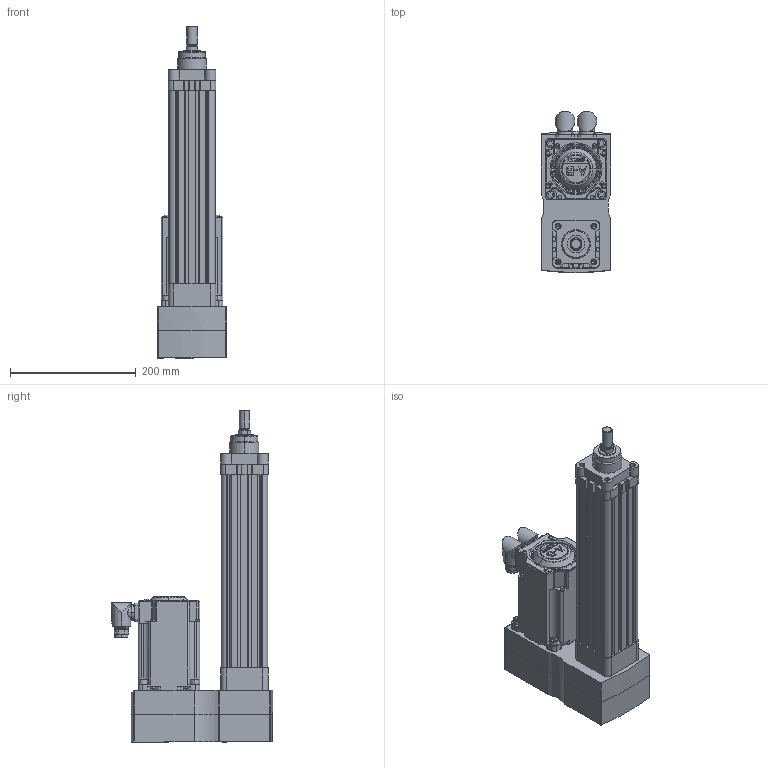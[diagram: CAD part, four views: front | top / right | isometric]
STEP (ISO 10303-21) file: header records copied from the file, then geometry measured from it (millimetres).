
FILE_DESCRIPTION (( 'STEP AP214' ), '1' );
FILE_NAME ('Rockwell Automation-MPAR-63DIA-20LEAD-MPAR-X3200H-M2B.STEP', '2012-04-12T08:17:02', ( 'Solidworks' ), ( 'Solidworks' ), 'SwSTEP 2.0', 'SolidWorks 2012', '' );
FILE_SCHEMA (( 'AUTOMOTIVE_DESIGN' ));
Length unit declared in the file: millimetre
Products named in the file (15): Rockwell Automation-MPAR-63DIA-20LEAD-MPAR-X3200H-M2B_MPAR-x3200x; Rockwell Automation-MPAR-63DIA-20LEAD-MPAR-X3200H-M2B_PRT0008-543143; Rockwell Automation-MPAR-63DIA-20LEAD-MPAR-X3200H-M2B_PRT0007-543143; Rockwell Automation-MPAR-63DIA-20LEAD-MPAR-X3200H-M2B_MPL-x420F-M-X213_MPL-x420x-xJ72AA; Rockwell Automation-MPAR-63DIA-20LEAD-MPAR-X3200H-M2B_MPL-x420x-xJ72AA_MPL-3xx-Encoder Connector; Rockwell Automation-MPAR-63DIA-20LEAD-MPAR-X3200H-M2B_MPL-x420x-xJ72AA_MPL-3xx-Power Connector; Rockwell Automation-MPAR-63DIA-20LEAD-MPAR-X3200H-M2B_MPL-x420x-xJ72AA_MPL-4xx-Shaft_420-shaft-keyed; Rockwell Automation-MPAR-63DIA-20LEAD-MPAR-X3200H-M2B_MPL-x420x-xJ72AA_MPL-4xx-Body_420; Rockwell Automation-MPAR-63DIA-20LEAD-MPAR-X3200H-M2B_627504; Rockwell Automation-MPAR-63DIA-20LEAD-MPAR-X3200H-M2B_627504_R_1202498; Rockwell Automation-MPAR-63DIA-20LEAD-MPAR-X3200H-M2B_627504_R_1202519; Rockwell Automation-MPAR-63DIA-20LEAD-MPAR-X3200H-M2B_627504_R_200692_2; Rockwell Automation-MPAR-63DIA-20LEAD-MPAR-X3200H-M2B_627504_R_215990_2; Rockwell Automation-MPAR-63DIA-20LEAD-MPAR-X3200H-M2B_627504_R_354152_2; Rockwell Automation-MPAR-63DIA-20LEAD-MPAR-X3200H-M2B
Assembly tree (24 placements, depth 3):
  Rockwell Automation-MPAR-63DIA-20LEAD-MPAR-X3200H-M2B
    Rockwell Automation-MPAR-63DIA-20LEAD-MPAR-X3200H-M2B_627504
      Rockwell Automation-MPAR-63DIA-20LEAD-MPAR-X3200H-M2B_627504_R_354152_2  x4
      Rockwell Automation-MPAR-63DIA-20LEAD-MPAR-X3200H-M2B_627504_R_215990_2  x5
      Rockwell Automation-MPAR-63DIA-20LEAD-MPAR-X3200H-M2B_627504_R_200692_2  x4
      Rockwell Automation-MPAR-63DIA-20LEAD-MPAR-X3200H-M2B_627504_R_1202519
      Rockwell Automation-MPAR-63DIA-20LEAD-MPAR-X3200H-M2B_627504_R_1202498
    Rockwell Automation-MPAR-63DIA-20LEAD-MPAR-X3200H-M2B_MPL-x420F-M-X213_MPL-x420x-xJ72AA
      Rockwell Automation-MPAR-63DIA-20LEAD-MPAR-X3200H-M2B_MPL-x420x-xJ72AA_MPL-4xx-Body_420
      Rockwell Automation-MPAR-63DIA-20LEAD-MPAR-X3200H-M2B_MPL-x420x-xJ72AA_MPL-4xx-Shaft_420-shaft-keyed
      Rockwell Automation-MPAR-63DIA-20LEAD-MPAR-X3200H-M2B_MPL-x420x-xJ72AA_MPL-3xx-Power Connector
      Rockwell Automation-MPAR-63DIA-20LEAD-MPAR-X3200H-M2B_MPL-x420x-xJ72AA_MPL-3xx-Encoder Connector
    Rockwell Automation-MPAR-63DIA-20LEAD-MPAR-X3200H-M2B_MPAR-x3200x
      Rockwell Automation-MPAR-63DIA-20LEAD-MPAR-X3200H-M2B_PRT0007-543143
      Rockwell Automation-MPAR-63DIA-20LEAD-MPAR-X3200H-M2B_PRT0008-543143
Bounding box: 110 x 256.82 x 528 mm (x, y, z)
Volume: 3819612.6 mm3; surface area: 623418.3 mm2
Topology: 22 solids, 22 shells, 2229 faces, 5685 edges, 3641 vertices
Faces by surface type: plane 866, cylinder 802, cone 353, bspline 112, torus 96
Entity records: 71109 total; most frequent: CARTESIAN_POINT 21253, ORIENTED_EDGE 9968, DIRECTION 9489, EDGE_CURVE 4984, AXIS2_PLACEMENT_3D 3475, VERTEX_POINT 3221, LINE 2539, VECTOR 2539
